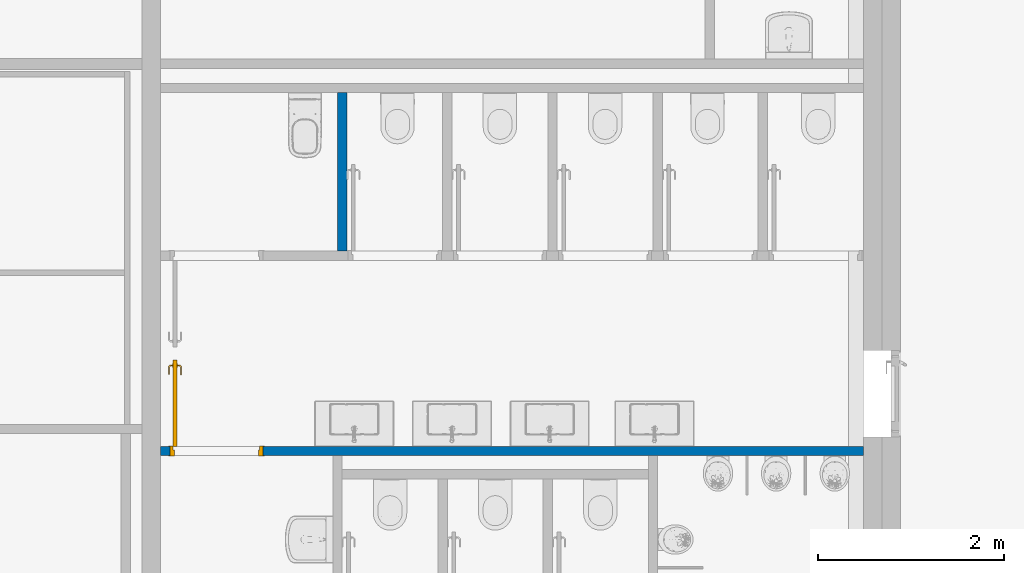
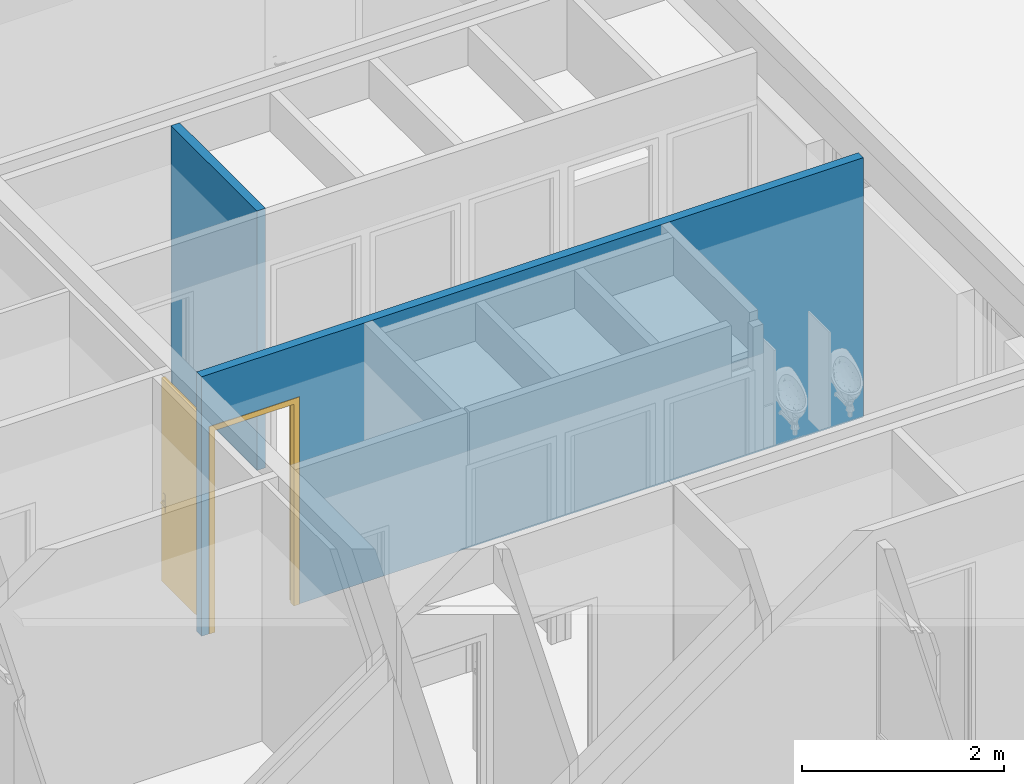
# One storey, part 119 of 240: 2 walls, 1 door, 1 opening.
"""IFC2X3 building model written with IfcOpenShell, lengths in centimetres."""

from ifc_helpers import new_model, entity, si_unit, converted_unit, derived_unit, direction, frame, frame_2d, origin, place, context, subcontext, project, spatial, rectangle, extrude, faceted_brep, source, transform, mapped, material, material_list, layer, layer_set, layer_usage, type_object, type_shapes, element, fill, save


model = new_model("IFC2X3")

# Units and contexts
model_context = context("Model", 3, precision=0.001, world=origin(), true_north=direction((6.12303176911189e-17, 1.0)))
body_context = subcontext(model_context, "Body", "Model", "MODEL_VIEW")
ifc_project = project(units=[si_unit("LENGTHUNIT", "METRE", prefix="CENTI"), si_unit("AREAUNIT", "SQUARE_METRE"), si_unit("VOLUMEUNIT", "CUBIC_METRE"), converted_unit("PLANEANGLEUNIT", "DEGREE", entity("IfcRatioMeasure", 0.0174532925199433), si_unit("PLANEANGLEUNIT", "RADIAN"), dimensions=[0, 0, 0, 0, 0, 0, 0]), si_unit("MASSUNIT", "GRAM", prefix="KILO"), derived_unit("MASSDENSITYUNIT", [(si_unit("MASSUNIT", "GRAM", prefix="KILO"), 1), (si_unit("LENGTHUNIT", "METRE"), -3)]), si_unit("TIMEUNIT", "SECOND"), si_unit("FREQUENCYUNIT", "HERTZ"), si_unit("THERMODYNAMICTEMPERATUREUNIT", "DEGREE_CELSIUS"), derived_unit("THERMALTRANSMITTANCEUNIT", [(si_unit("MASSUNIT", "GRAM", prefix="KILO"), 1), (si_unit("THERMODYNAMICTEMPERATUREUNIT", "KELVIN"), -1), (si_unit("TIMEUNIT", "SECOND"), -3)]), derived_unit("VOLUMETRICFLOWRATEUNIT", [(si_unit("LENGTHUNIT", "METRE"), 3), (si_unit("TIMEUNIT", "SECOND"), -1)]), si_unit("ELECTRICCURRENTUNIT", "AMPERE"), si_unit("ELECTRICVOLTAGEUNIT", "VOLT"), si_unit("POWERUNIT", "WATT"), si_unit("FORCEUNIT", "NEWTON", prefix="KILO"), si_unit("ILLUMINANCEUNIT", "LUX"), si_unit("LUMINOUSFLUXUNIT", "LUMEN"), si_unit("LUMINOUSINTENSITYUNIT", "CANDELA"), derived_unit("USERDEFINED", [(si_unit("MASSUNIT", "GRAM", prefix="KILO"), -1), (si_unit("LENGTHUNIT", "METRE"), -2), (si_unit("TIMEUNIT", "SECOND"), 3), (si_unit("LUMINOUSFLUXUNIT", "LUMEN"), 1)]), derived_unit("LINEARVELOCITYUNIT", [(si_unit("LENGTHUNIT", "METRE"), 1), (si_unit("TIMEUNIT", "SECOND"), -1)]), si_unit("PRESSUREUNIT", "PASCAL"), derived_unit("USERDEFINED", [(si_unit("LENGTHUNIT", "METRE"), -2), (si_unit("MASSUNIT", "GRAM", prefix="KILO"), 1), (si_unit("TIMEUNIT", "SECOND"), -2)])], contexts=[model_context])

# Site, building, storey
site_placement = place(None, frame((-2781.94577612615, 7442.24238424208, 0.0)))
site = spatial("IfcSite", under=ifc_project, at=site_placement, Name="Default", CompositionType="ELEMENT")
building_placement = place(site_placement, origin())
building = spatial("IfcBuilding", under=site, at=building_placement, CompositionType="ELEMENT")
storey_placement = place(building_placement, origin())
storey = spatial("IfcBuildingStorey", under=building, at=storey_placement, Name="N00 - COO", CompositionType="ELEMENT", Elevation=0.0)

# Wall
ifc_material_1 = material(Name="01 - Enduit/Plâtre")
ifc_layer_1 = layer(ifc_material_1, 1.3)
ifc_material_2 = material(Name="Terre cuite")
ifc_layer_2 = layer(ifc_material_2, 7.4)
ifc_layer_3 = layer(ifc_material_1, 1.3)
ifc_layer_set = layer_set([ifc_layer_1, ifc_layer_2, ifc_layer_3], Name="Mur de base:06 - cloisons - Carreau de terre cuite (10cm)")
ifc_layer_usage_1 = layer_usage(ifc_layer_set, "AXIS2", "NEGATIVE", 5.0)
wall_type = type_object("IfcWallType", Name="Mur de base:06 - cloisons - Carreau de terre cuite (10cm)", PredefinedType="STANDARD", material=ifc_layer_set)
wall_1_placement = place(building_placement, frame((-9481.97287020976, -2235.07903364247, 0.0), z_axis=(0.0, 0.0, 1.0), x_axis=(0.0, -1.0, 0.0)))
element("IfcWallStandardCase", 1, at=wall_1_placement, inside=storey, type_object=wall_type, material=ifc_layer_usage_1, Name="Mur de base:06 - cloisons - Carreau de terre cuite (10cm)", ObjectType="Mur de base:06 - cloisons - Carreau de terre cuite (10cm)", context=body_context, shape_type="SweptSolid", body=[
    extrude(rectangle(XDim=170.0, YDim=10.0000000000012, at=frame_2d((85.0000000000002, 0.0), x_axis=(-1.0, 0.0))), origin(), (0.0, 0.0, 1.0), 313.0),
])

# Wall, opening, door
ifc_layer_usage_2 = layer_usage(ifc_layer_set, "AXIS2", "NEGATIVE", 5.0)
wall_2_placement = place(building_placement, frame((-9677.0, -2620.07903364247, 0.0)))
wall_2 = element("IfcWallStandardCase", 2, at=wall_2_placement, inside=storey, type_object=wall_type, material=ifc_layer_usage_2, Name="Mur de base:06 - cloisons - Carreau de terre cuite (10cm)", ObjectType="Mur de base:06 - cloisons - Carreau de terre cuite (10cm)", context=body_context, shape_type="SweptSolid", body=[
    extrude(rectangle(XDim=755.067816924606, YDim=10.0000000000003, at=frame_2d((377.533908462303, 1.4210854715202e-14), x_axis=(-1.0, 0.0))), origin(), (0.0, 0.0, 1.0), 313.0),
])
opening_placement = place(wall_2_placement, frame((10.0000030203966, -5.0, 0.0)))
opening = element("IfcOpeningElement", 3, at=opening_placement, cuts=wall_2, Name="Int. Simple:PP simple (0.93m x 2.50m):1", ObjectType="Opening", context=body_context, shape_type="SweptSolid", body=[
    extrude(rectangle(XDim=248.500000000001, YDim=99.9999999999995, at=frame_2d((124.250000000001, 50.0), x_axis=(1.0, 0.0))), frame((0.0, 0.0, 0.0), z_axis=(0.0, 1.0, 0.0), x_axis=(0.0, 0.0, 1.0)), (0.0, 0.0, 1.0), 10.0),
])
ifc_material_3 = material(Name="Finition Peinture - Blanc satiné")
ifc_material_4 = material(Name="Bois - Panneau de porte")
ifc_material_5 = material(Name="Bois - Cadre de porte")
ifc_material_list_1 = material_list([ifc_material_3, ifc_material_4, ifc_material_5])
ifc_material_list_2 = material_list([ifc_material_3, ifc_material_4, ifc_material_5])
door_style = type_object("IfcDoorStyle", Name="PP simple (0.93m x 2.50m)", ConstructionType="NOTDEFINED", OperationType="SINGLE_SWING_LEFT", ParameterTakesPrecedence=False, Sizeable=False, material=ifc_material_list_2)
shared_shape = source(origin(), body_context, "Body", "Brep", [
    faceted_brep([(97.0, -85.9647238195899, 86.6003983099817), (97.0, -85.0, 87.0), (97.0, -85.0, 108.0), (97.0, -85.96472381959, 108.399601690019), (97.0, -87.0, 108.535898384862), (97.0, -88.0352761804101, 108.399601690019), (97.0, -89.0, 108.0), (97.0, -89.0, 87.0), (97.0, -88.03527618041, 86.6003983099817), (97.0, -87.0, 86.464101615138), (96.5000000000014, -85.96472381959, 108.399601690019), (96.5000000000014, -85.0, 108.0), (96.5000000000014, -85.0, 87.0), (96.5000000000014, -85.9647238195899, 86.6003983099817), (96.5000000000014, -87.0, 86.464101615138), (96.5000000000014, -88.03527618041, 86.6003983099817), (96.5000000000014, -89.0, 87.0), (96.5000000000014, -89.0, 108.0), (96.5000000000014, -88.0352761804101, 108.399601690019), (96.5000000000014, -87.0, 108.535898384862)], [[[0, 1, 2, 3, 4, 5, 6, 7, 8, 9]], [[10, 11, 12, 13, 14, 15, 16, 17, 18, 19]], [[16, 15, 8, 7]], [[8, 15, 14, 9]], [[14, 13, 0, 9]], [[13, 12, 1, 0]], [[2, 1, 12, 11]], [[11, 10, 3, 2]], [[3, 10, 19, 4]], [[19, 18, 5, 4]], [[18, 17, 6, 5]], [[7, 6, 17, 16]]]),
    faceted_brep([(92.5000000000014, -85.9647238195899, 86.6003983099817), (92.5000000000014, -85.0, 87.0), (92.5000000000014, -85.0, 108.0), (92.5000000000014, -85.96472381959, 108.399601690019), (92.5000000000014, -87.0, 108.535898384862), (92.5000000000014, -88.0352761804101, 108.399601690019), (92.5000000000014, -89.0, 108.0), (92.5000000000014, -89.0, 87.0), (92.5000000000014, -88.03527618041, 86.6003983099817), (92.5000000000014, -87.0, 86.464101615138), (92.0, -85.96472381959, 108.399601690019), (92.0, -85.0, 108.0), (92.0, -85.0, 87.0), (92.0, -85.9647238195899, 86.6003983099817), (92.0, -87.0, 86.464101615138), (92.0, -88.03527618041, 86.6003983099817), (92.0, -89.0, 87.0), (92.0, -89.0, 108.0), (92.0, -88.0352761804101, 108.399601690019), (92.0, -87.0, 108.535898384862)], [[[0, 1, 2, 3, 4, 5, 6, 7, 8, 9]], [[10, 11, 12, 13, 14, 15, 16, 17, 18, 19]], [[11, 10, 3, 2]], [[3, 10, 19, 4]], [[19, 18, 5, 4]], [[18, 17, 6, 5]], [[7, 6, 17, 16]], [[16, 15, 8, 7]], [[8, 15, 14, 9]], [[14, 13, 0, 9]], [[13, 12, 1, 0]], [[2, 1, 12, 11]]]),
    faceted_brep([(97.0, -87.2025298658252, 100.778044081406), (97.0, -86.7974701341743, 100.778044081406), (97.0, -86.3999999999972, 100.699999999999), (97.0, -86.3999999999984, 99.3000000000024), (97.0, -86.7974701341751, 99.2219559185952), (97.0, -87.202529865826, 99.221955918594), (97.0, -87.6000000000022, 99.2999999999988), (97.0, -87.6000000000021, 100.7), (99.7650950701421, -87.6000000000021, 100.7), (99.6004575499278, -87.2025298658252, 100.778044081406), (101.205345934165, -85.5976414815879, 100.778044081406), (100.800286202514, -85.4298602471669, 100.778044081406), (99.4326763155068, -86.7974701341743, 100.778044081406), (99.2680387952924, -86.3999999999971, 100.7), (99.2680387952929, -86.3999999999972, 99.3000000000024), (99.4326763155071, -86.7974701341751, 99.2219559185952), (100.800286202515, -85.4298602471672, 99.2219559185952), (101.205345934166, -85.5976414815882, 99.221955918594), (99.6004575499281, -87.202529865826, 99.221955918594), (99.7650950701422, -87.6000000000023, 99.2999999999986), (101.602816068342, -85.7622790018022, 100.7), (100.402816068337, -85.2652227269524, 100.7), (100.402816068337, -85.2652227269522, 99.3000000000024), (101.602816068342, -85.7622790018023, 99.2999999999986), (101.602816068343, -76.9981359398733, 99.2999999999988), (101.205345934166, -76.9981359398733, 99.221955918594), (100.800286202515, -76.9981359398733, 99.2219559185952), (100.402816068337, -76.9981359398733, 99.3000000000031), (100.402816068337, -76.9981359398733, 100.7), (100.800286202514, -76.9981359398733, 100.778044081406), (101.205345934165, -76.9981359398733, 100.778044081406), (101.602816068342, -76.9981359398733, 100.699999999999), (101.602816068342, -81.7692302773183, 100.7), (101.00281606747, -81.2139980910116, 100.78786867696), (100.402816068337, -81.1316793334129, 100.7), (100.402816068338, -81.1316793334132, 99.3000000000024), (101.002816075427, -81.2139981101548, 99.2121313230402), (101.602816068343, -81.7692299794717, 99.2999999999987)], [[[0, 1, 2, 3, 4, 5, 6, 7]], [[8, 9, 0, 7]], [[9, 10, 11, 12, 1, 0]], [[12, 13, 2, 1]], [[3, 2, 13, 14]], [[14, 15, 4, 3]], [[15, 16, 17, 18, 5, 4]], [[18, 19, 6, 5]], [[7, 6, 19, 8]], [[20, 10, 9, 8]], [[11, 21, 13, 12]], [[14, 13, 21, 22]], [[22, 16, 15, 14]], [[17, 23, 19, 18]], [[8, 19, 23, 20]], [[24, 25, 26, 27, 28, 29, 30, 31]], [[32, 30, 33]], [[31, 30, 32]], [[10, 20, 32]], [[33, 34, 11]], [[21, 11, 34]], [[34, 29, 28]], [[30, 29, 33]], [[29, 34, 33]], [[10, 32, 33]], [[10, 33, 11]], [[22, 21, 34, 28, 27, 35]], [[35, 26, 36]], [[37, 36, 25]], [[22, 35, 16]], [[35, 27, 26]], [[24, 37, 25]], [[23, 17, 37]], [[37, 17, 36]], [[17, 16, 36]], [[16, 35, 36]], [[25, 36, 26]], [[20, 23, 37, 24, 31, 32]]]),
    faceted_brep([(92.0, -87.2025298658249, 100.778044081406), (92.0, -87.6000000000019, 100.7), (92.0, -87.6000000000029, 99.2999999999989), (92.0, -87.2025298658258, 99.221955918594), (92.0, -86.7974701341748, 99.2219559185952), (92.0, -86.399999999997, 99.3000000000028), (92.0, -86.3999999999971, 100.7), (92.0, -86.797470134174, 100.778044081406), (89.7514795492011, -86.399999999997, 99.3000000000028), (89.751479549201, -86.399999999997, 100.7), (89.5868420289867, -86.7974701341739, 100.778044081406), (88.2054812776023, -85.4161093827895, 100.778044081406), (87.8004215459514, -85.5838906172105, 100.778044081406), (89.4190607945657, -87.2025298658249, 100.778044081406), (89.2544232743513, -87.6000000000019, 100.7), (89.2544232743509, -87.6000000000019, 99.2999999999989), (89.4190607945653, -87.2025298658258, 99.221955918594), (87.8004215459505, -85.5838906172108, 99.221955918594), (88.2054812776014, -85.4161093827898, 99.2219559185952), (89.5868420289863, -86.7974701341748, 99.2219559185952), (88.6029514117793, -85.2514718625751, 99.3000000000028), (88.6029514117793, -85.2514718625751, 100.7), (87.4029514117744, -85.7485281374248, 100.7), (87.4029514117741, -85.7485281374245, 99.2999999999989), (88.6029514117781, -76.9954216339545, 99.3000000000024), (88.2054812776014, -76.9954216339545, 99.2219559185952), (87.8004215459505, -76.9954216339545, 99.221955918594), (87.4029514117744, -76.9954216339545, 99.2999999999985), (87.4029514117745, -76.9954216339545, 100.7), (87.8004215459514, -76.9954216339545, 100.778044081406), (88.2054812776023, -76.9954216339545, 100.778044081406), (88.6029514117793, -76.9954216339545, 100.7), (88.6029514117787, -81.1234479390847, 99.3000000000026), (88.6029514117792, -81.1234467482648, 100.7), (88.0029514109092, -81.2057655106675, 100.78786867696), (87.4029514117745, -81.755479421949, 100.7), (87.4029514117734, -81.75547956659, 99.2999999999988), (88.0029514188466, -81.2057654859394, 99.2121313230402)], [[[0, 1, 2, 3, 4, 5, 6, 7]], [[6, 5, 8, 9]], [[9, 10, 7, 6]], [[10, 11, 12, 13, 0, 7]], [[13, 14, 1, 0]], [[2, 1, 14, 15]], [[15, 16, 3, 2]], [[16, 17, 18, 19, 4, 3]], [[19, 8, 5, 4]], [[9, 8, 20, 21]], [[21, 11, 10, 9]], [[12, 22, 14, 13]], [[15, 14, 22, 23]], [[23, 17, 16, 15]], [[18, 20, 8, 19]], [[24, 25, 26, 27, 28, 29, 30, 31]], [[21, 20, 32, 24, 31, 33]], [[33, 30, 34]], [[35, 34, 29]], [[21, 33, 11]], [[33, 31, 30]], [[28, 35, 29]], [[22, 12, 35]], [[35, 12, 34]], [[12, 11, 34]], [[11, 33, 34]], [[29, 34, 30]], [[22, 35, 28, 27, 36, 23]], [[36, 26, 37]], [[27, 26, 36]], [[17, 23, 36]], [[37, 32, 18]], [[20, 18, 32]], [[32, 25, 24]], [[26, 25, 37]], [[25, 32, 37]], [[17, 36, 37]], [[17, 37, 18]]]),
    faceted_brep([(92.5000000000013, -93.0, 245.0), (92.5000000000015, 0.0, 245.0), (92.5000000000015, 0.0, 0.0), (92.5000000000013, -93.0, 0.0), (96.5000000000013, -93.0, 245.0), (96.5000000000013, -93.0, 0.0), (96.5000000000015, 0.0, 0.0), (96.5000000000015, 0.0, 245.0)], [[[0, 1, 2, 3]], [[4, 5, 6, 7]], [[1, 0, 4, 7]], [[2, 1, 7, 6]], [[3, 2, 6, 5]], [[0, 3, 5, 4]]]),
    faceted_brep([(0.0, 10.0, 0.0), (-1.50000000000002, 10.0, 0.0), (-1.50000000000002, 10.5000000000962, 0.0), (5.0, 10.5000000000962, 0.0), (5.0, 4.0, 0.0), (3.50000000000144, 4.0, 0.0), (3.50000000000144, -0.500000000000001, 0.0), (-1.50000000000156, -0.500000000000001, 0.0), (-1.50000000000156, 0.0, 0.0), (0.0, 0.0, 0.0), (0.0, 0.0, 248.500000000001), (0.0, 10.0, 248.500000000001), (100.0, 10.0, 248.500000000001), (100.0, 10.0, 0.0), (101.5, 10.0, 0.0), (101.5, 10.0, 250.0), (-1.50000000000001, 10.0, 250.0), (5.0, 10.5000000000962, 243.5), (5.0, 4.0, 243.5), (95.0, 4.0, 243.5), (95.0, 4.0, 0.0), (96.499999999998, 4.0, 0.0), (96.499999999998, 4.0, 245.0), (3.50000000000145, 4.0, 245.0), (100.0, 0.0, 248.500000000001), (100.0, 0.0, 0.0), (101.500000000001, 0.0, 0.0), (101.500000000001, -0.500000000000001, 0.0), (96.499999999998, -0.500000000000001, 0.0), (95.0, 10.5000000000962, 0.0), (101.5, 10.5000000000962, 0.0), (95.0, 10.5000000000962, 243.5), (3.50000000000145, -0.500000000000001, 245.0), (96.499999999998, -0.500000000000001, 245.0), (101.500000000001, -0.500000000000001, 250.0), (-1.50000000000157, -0.500000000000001, 250.0), (-1.50000000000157, 0.0, 250.0), (101.500000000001, 0.0, 250.0), (-1.50000000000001, 10.5000000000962, 250.0), (101.5, 10.5000000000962, 250.0)], [[[0, 1, 2, 3, 4, 5, 6, 7, 8, 9]], [[0, 9, 10, 11]], [[1, 0, 11, 12, 13, 14, 15, 16]], [[3, 17, 18, 4]], [[5, 4, 18, 19, 20, 21, 22, 23]], [[12, 24, 25, 13]], [[13, 25, 26, 27, 28, 21, 20, 29, 30, 14]], [[19, 31, 29, 20]], [[11, 10, 24, 12]], [[18, 17, 31, 19]], [[5, 23, 32, 6]], [[7, 6, 32, 33, 28, 27, 34, 35]], [[8, 7, 35, 36]], [[9, 8, 36, 37, 26, 25, 24, 10]], [[2, 1, 16, 38]], [[3, 2, 38, 39, 30, 29, 31, 17]], [[33, 22, 21, 28]], [[37, 34, 27, 26]], [[39, 15, 14, 30]], [[32, 23, 22, 33]], [[36, 35, 34, 37]], [[38, 16, 15, 39]]]),
])
type_shapes(door_style, [shared_shape])
door_placement = place(opening_placement, frame((99.9999969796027, 10.0, 0.0), z_axis=(0.0, 0.0, 1.0), x_axis=(-1.0, 0.0, 0.0)))
door = element("IfcDoor", 4, at=door_placement, inside=storey, type_object=door_style, material=ifc_material_list_1, Name="Int. Simple:PP simple (0.93m x 2.50m)", ObjectType="Int. Simple:PP simple (0.93m x 2.50m)", OverallHeight=248.500000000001, OverallWidth=99.9999999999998, context=body_context, shape_type="MappedRepresentation", body=[
    mapped(shared_shape, transform((0.0, 0.0, 0.0), scale=1.0)),
])
fill(opening, door)

save(model, "model.ifc")
